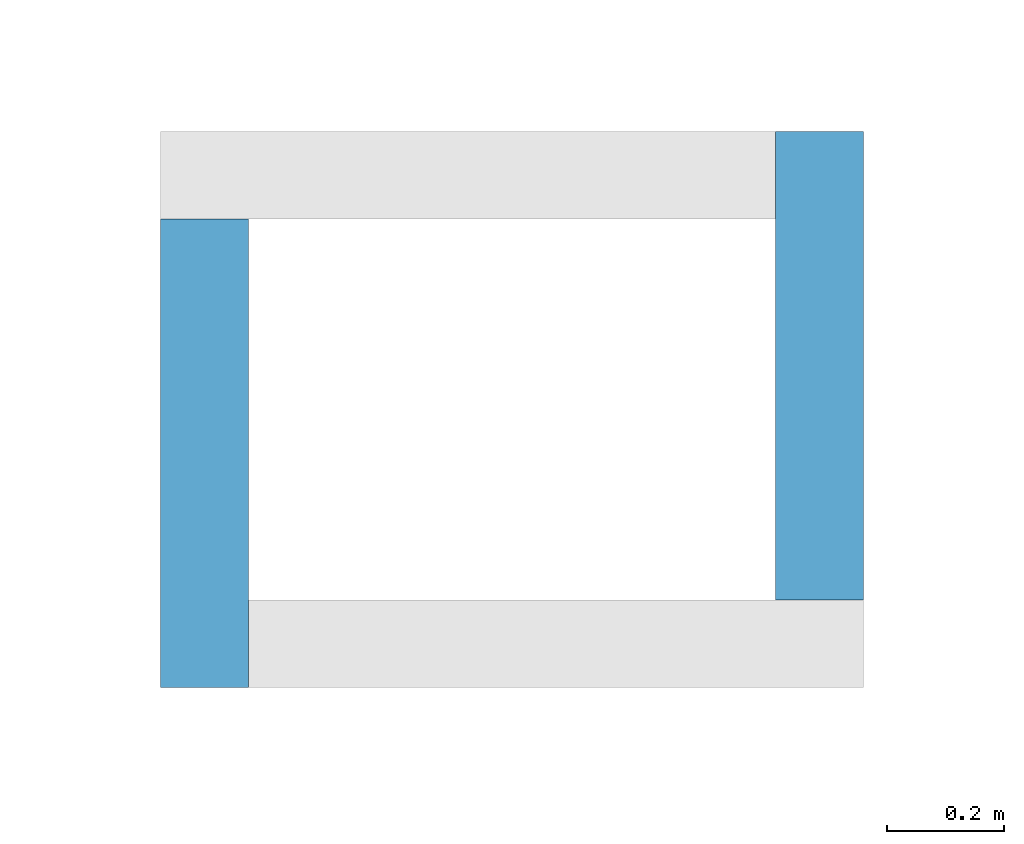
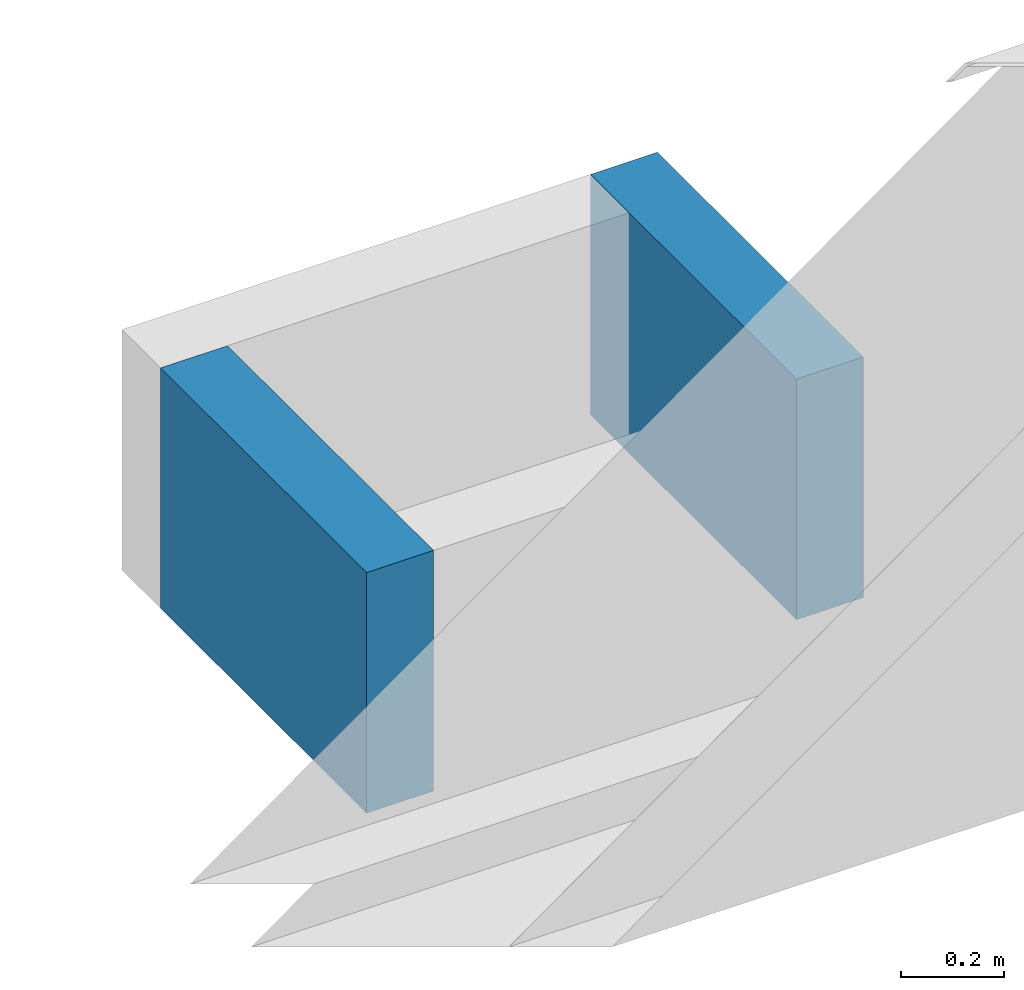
# One storey, part 26 of 37: 2 walls.
"""IFC4 building model written with IfcOpenShell, lengths in metres."""

from ifc_helpers import new_model, entity, si_unit, converted_unit, derived_unit, frame, frame_2d, origin, origin_with_axes, place, context, subcontext, project, spatial, rectangle, extrude, material, layer, layer_set, layer_usage, element, save


model = new_model("IFC4")

# Units and contexts
model_context = context("Model", 3, precision=1e-05, world=origin())
body_context = subcontext(model_context, "Body", "Model", "MODEL_VIEW")
ifc_project = project(units=[si_unit("LENGTHUNIT", "METRE"), si_unit("AREAUNIT", "SQUARE_METRE"), si_unit("VOLUMEUNIT", "CUBIC_METRE"), si_unit("MASSUNIT", "GRAM", prefix="KILO"), converted_unit("PLANEANGLEUNIT", "DEGREE", entity("IfcPlaneAngleMeasure", 0.0174532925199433), si_unit("PLANEANGLEUNIT", "RADIAN"), dimensions=[0, 0, 0, 0, 0, 0, 0]), derived_unit("THERMALTRANSMITTANCEUNIT", [(si_unit("POWERUNIT", "WATT"), 1), (si_unit("THERMODYNAMICTEMPERATUREUNIT", "KELVIN"), -1), (si_unit("LENGTHUNIT", "METRE"), -2)]), derived_unit("VOLUMETRICFLOWRATEUNIT", [(si_unit("LENGTHUNIT", "METRE"), 3), (converted_unit("TIMEUNIT", "hour", entity("IfcTimeMeasure", 3600.0), si_unit("TIMEUNIT", "SECOND"), dimensions=[0, 0, 1, 0, 0, 0, 0]), -1), (si_unit("LENGTHUNIT", "METRE"), -1)])], contexts=[model_context])

# Site, building, storey
site_placement = place(None, origin())
site = spatial("IfcSite", under=ifc_project, at=site_placement, Name="3. ASŘ", CompositionType="ELEMENT")
building_placement = place(site_placement, origin())
building = spatial("IfcBuilding", under=site, at=building_placement, Name="Pavilon B", CompositionType="ELEMENT")
storey_placement = place(building_placement, origin())
storey = spatial("IfcBuildingStorey", under=building, at=storey_placement, Name="Půdorys 1.NP", CompositionType="ELEMENT", Elevation=0.0)

# Walls
ifc_material_1 = material(Name="ZELEZOBETONOVÁ KCE")
ifc_layer_1 = layer(ifc_material_1, 0.15)
ifc_layer_set_1 = layer_set([ifc_layer_1])
ifc_layer_usage_1 = layer_usage(ifc_layer_set_1, "AXIS2", "POSITIVE", 0.0)
wall_1_placement = place(storey_placement, frame((23.0430036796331, -14.6107926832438, -0.35), z_axis=(0.0, 0.0, 1.0), x_axis=(0.0, 1.0, 0.0)))
element("IfcWall", 1, at=wall_1_placement, inside=storey, material=ifc_layer_usage_1, Name="ZELEZOBETONOVÁ KCE", context=body_context, shape_type="SweptSolid", body=[
    extrude(rectangle(XDim=0.8, YDim=0.15, at=frame_2d((0.4, 0.075), x_axis=(1.0, 0.0))), origin_with_axes(), (0.0, 0.0, 1.0), 0.57),
])
ifc_material_2 = material(Name="ZELEZOBETONOVÁ KCE")
ifc_layer_2 = layer(ifc_material_2, 0.15)
ifc_layer_set_2 = layer_set([ifc_layer_2])
ifc_layer_usage_2 = layer_usage(ifc_layer_set_2, "AXIS2", "POSITIVE", 0.0)
wall_2_placement = place(storey_placement, frame((21.8430036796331, -13.9607926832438, -0.35), z_axis=(0.0, 0.0, 1.0), x_axis=(0.0, -1.0, 0.0)))
element("IfcWall", 2, at=wall_2_placement, inside=storey, material=ifc_layer_usage_2, Name="ZELEZOBETONOVÁ KCE", context=body_context, shape_type="SweptSolid", body=[
    extrude(rectangle(XDim=0.8, YDim=0.15, at=frame_2d((0.4, 0.075), x_axis=(1.0, 0.0))), origin_with_axes(), (0.0, 0.0, 1.0), 0.57),
])

save(model, "model.ifc")
